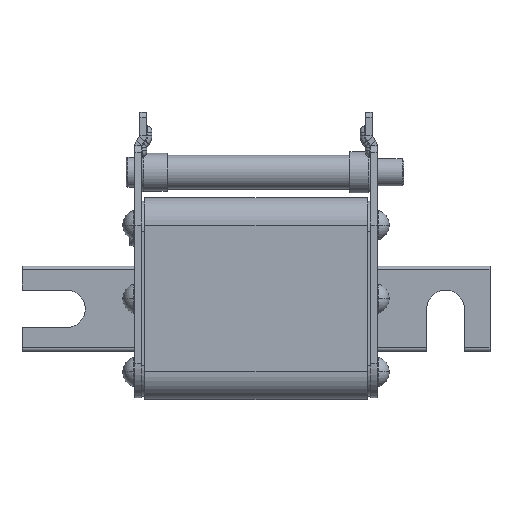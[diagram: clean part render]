
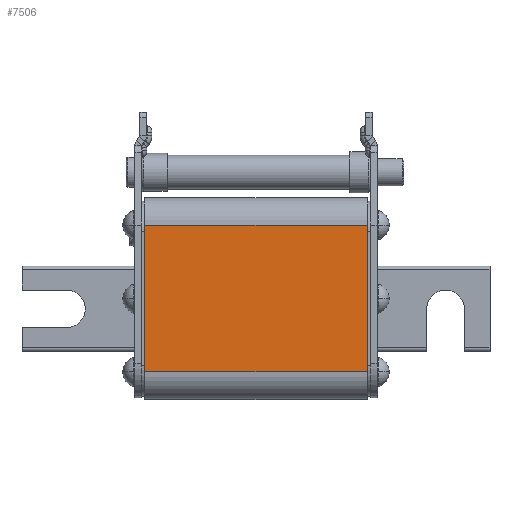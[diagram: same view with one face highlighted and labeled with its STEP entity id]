
A CAD part, top view. The second image highlights one B-rep face of the part: STEP entity #7506.
In plain terms, the highlighted planar face has unit normal (0, 0, 1).
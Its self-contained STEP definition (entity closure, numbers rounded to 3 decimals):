
#62 = ORIENTED_EDGE ( 'NONE', *, *, #16493, .F. ) ;
#1651 = VECTOR ( 'NONE', #7587, 1000. ) ;
#2494 = EDGE_CURVE ( 'NONE', #15273, #12052, #17160, .T. ) ;
#2633 = LINE ( 'NONE', #6794, #20627 ) ;
#3535 = DIRECTION ( 'NONE',  ( 1., 0., 0. ) ) ;
#3806 = CARTESIAN_POINT ( 'NONE',  ( -32.5, 21.5, 29.5 ) ) ;
#4026 = ORIENTED_EDGE ( 'NONE', *, *, #4176, .T. ) ;
#4160 = VERTEX_POINT ( 'NONE', #21651 ) ;
#4176 = EDGE_CURVE ( 'NONE', #4160, #5961, #18599, .T. ) ;
#5699 = DIRECTION ( 'NONE',  ( 1., 0., 0. ) ) ;
#5961 = VERTEX_POINT ( 'NONE', #7687 ) ;
#6794 = CARTESIAN_POINT ( 'NONE',  ( 32.5, -21.5, 29.5 ) ) ;
#7450 = VECTOR ( 'NONE', #5699, 1000. ) ;
#7506 = ADVANCED_FACE ( 'NONE', ( #21919 ), #17703, .F. ) ;
#7587 = DIRECTION ( 'NONE',  ( 0., 1., 0. ) ) ;
#7687 = CARTESIAN_POINT ( 'NONE',  ( 32.5, -21.5, 29.5 ) ) ;
#9600 = ORIENTED_EDGE ( 'NONE', *, *, #2494, .F. ) ;
#9774 = AXIS2_PLACEMENT_3D ( 'NONE', #13898, #10156, #14050 ) ;
#10156 = DIRECTION ( 'NONE',  ( 0., 0., -1. ) ) ;
#10317 = VECTOR ( 'NONE', #3535, 1000. ) ;
#10509 = DIRECTION ( 'NONE',  ( 0., 1., 0. ) ) ;
#10583 = CARTESIAN_POINT ( 'NONE',  ( 32.5, 21.5, 29.5 ) ) ;
#10751 = CARTESIAN_POINT ( 'NONE',  ( -32.5, -21.5, 29.5 ) ) ;
#10963 = CARTESIAN_POINT ( 'NONE',  ( -32.5, 21.5, 29.5 ) ) ;
#12011 = EDGE_CURVE ( 'NONE', #5961, #12052, #2633, .T. ) ;
#12052 = VERTEX_POINT ( 'NONE', #10583 ) ;
#13898 = CARTESIAN_POINT ( 'NONE',  ( -32.5, -21.5, 29.5 ) ) ;
#14050 = DIRECTION ( 'NONE',  ( 0., -1., 0. ) ) ;
#15273 = VERTEX_POINT ( 'NONE', #10963 ) ;
#16254 = LINE ( 'NONE', #22250, #1651 ) ;
#16493 = EDGE_CURVE ( 'NONE', #4160, #15273, #16254, .T. ) ;
#17160 = LINE ( 'NONE', #3806, #7450 ) ;
#17703 = PLANE ( 'NONE',  #9774 ) ;
#18599 = LINE ( 'NONE', #10751, #10317 ) ;
#19257 = ORIENTED_EDGE ( 'NONE', *, *, #12011, .T. ) ;
#20627 = VECTOR ( 'NONE', #10509, 1000. ) ;
#21651 = CARTESIAN_POINT ( 'NONE',  ( -32.5, -21.5, 29.5 ) ) ;
#21919 = FACE_OUTER_BOUND ( 'NONE', #22378, .T. ) ;
#22250 = CARTESIAN_POINT ( 'NONE',  ( -32.5, -21.5, 29.5 ) ) ;
#22378 = EDGE_LOOP ( 'NONE', ( #19257, #9600, #62, #4026 ) ) ;
